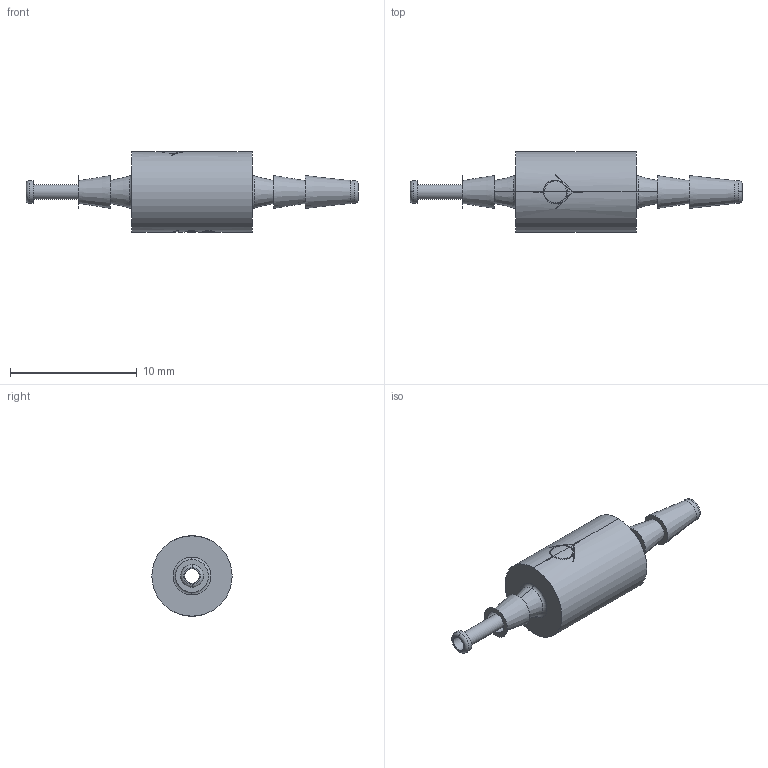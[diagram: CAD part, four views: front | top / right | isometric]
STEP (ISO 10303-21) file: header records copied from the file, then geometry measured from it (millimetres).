
FILE_DESCRIPTION(/* description */ ('SolidWorks IGES file using NURBS representation for surfaces '),/* implementation_level */ '2;1');
FILE_NAME(/* name */ 'K:\Normteile INVENTOR\Air-Logic\Check Valves\F-2804-403-B80.IGS.ipt.stp',/* time_stamp */ '2020-05-27T10:36:11+02:00',/* author */ ('amarsh'),/* organization */ (''),/* preprocessor_version */ 'ST-DEVELOPER v18',/* originating_system */ 'Autodesk Inventor 2020',/* authorisation */ '');
FILE_SCHEMA (('AUTOMOTIVE_DESIGN { 1 0 10303 214 3 1 1 }'));
Length unit declared in the file: millimetre
Products named in the file (1): F-2804-403-B80.IGS
Bounding box: 26.22 x 6.35 x 6.35 mm (x, y, z)
Surface area: 467.1 mm2 (no closed solid volume)
Topology: 0 solids, 2 shells, 98 faces, 270 edges, 182 vertices
Faces by surface type: bspline 42, plane 24, cylinder 16, torus 8, cone 8
Full cylindrical faces by diameter (mm): 1.17 x1, 1.8 x2
Entity records: 6283 total; most frequent: CARTESIAN_POINT 3948, ORIENTED_EDGE 534, DIRECTION 372, EDGE_CURVE 270, VERTEX_POINT 182, AXIS2_PLACEMENT_3D 134, EDGE_LOOP 108, LINE 104
